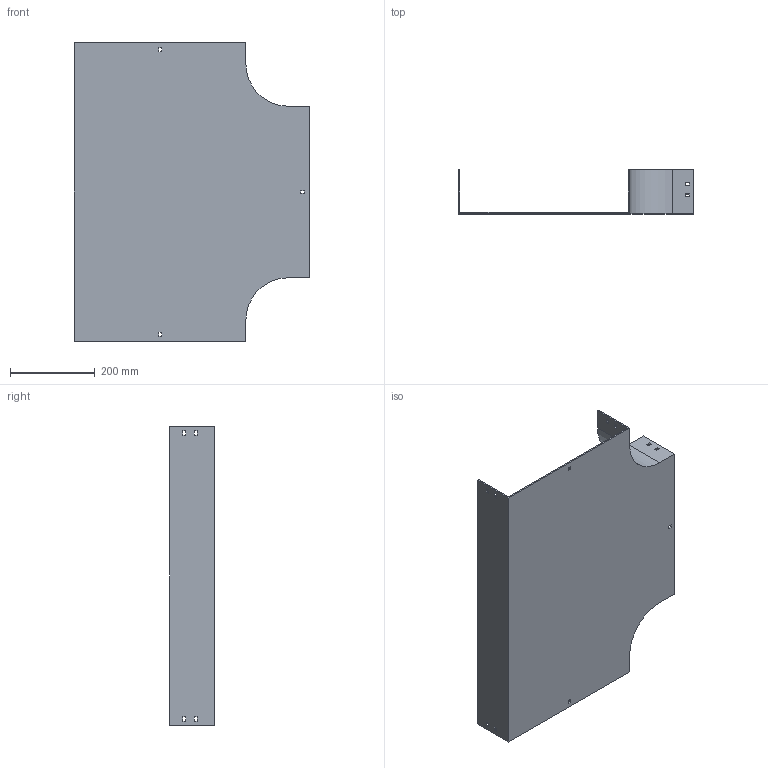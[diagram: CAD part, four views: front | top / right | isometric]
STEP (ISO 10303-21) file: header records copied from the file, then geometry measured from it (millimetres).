
FILE_DESCRIPTION (( 'STEP AP214' ), '1' );
FILE_NAME ('15B1D400.step', '2025-02-21T09:53:22', ( '' ), ( '' ), 'SwSTEP 2.0', 'SolidWorks 2023', '' );
FILE_SCHEMA (( 'AUTOMOTIVE_DESIGN' ));
Length unit declared in the file: millimetre
Products named in the file (1): 15B1D400
Bounding box: 554 x 104 x 704 mm (x, y, z)
Volume: 1649445.2 mm3; surface area: 954909.7 mm2
Topology: 1 solids, 1 shells, 82 faces, 240 edges, 160 vertices
Faces by surface type: plane 78, cylinder 4
Entity records: 2755 total; most frequent: CARTESIAN_POINT 483, ORIENTED_EDGE 480, DIRECTION 414, EDGE_CURVE 240, LINE 232, VECTOR 232, VERTEX_POINT 160, EDGE_LOOP 112
